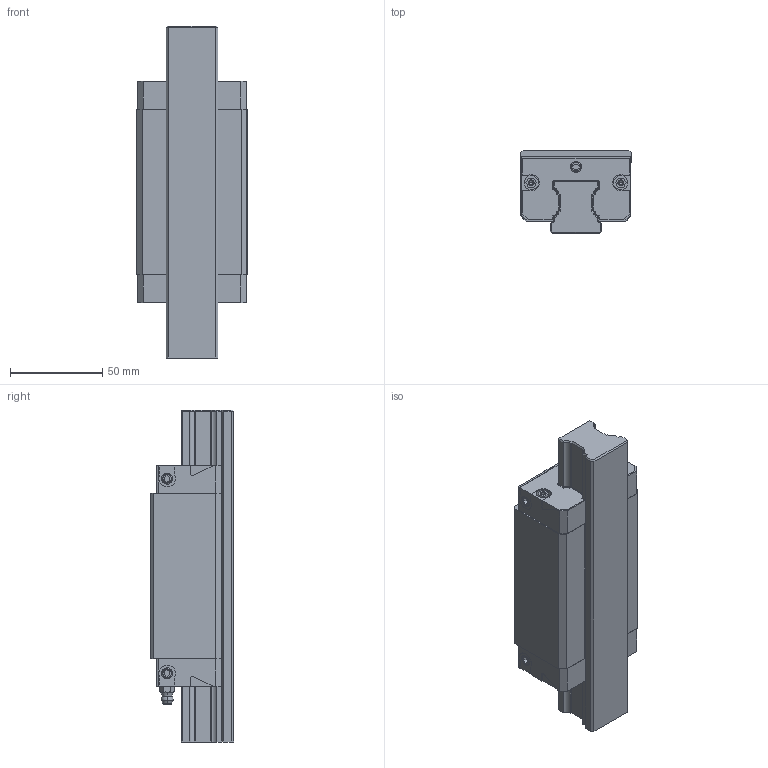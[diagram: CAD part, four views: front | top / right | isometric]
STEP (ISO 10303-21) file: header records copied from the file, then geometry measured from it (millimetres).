
FILE_DESCRIPTION((''),'2;1');
FILE_NAME('KWD_030_SLH_CS__ASM','2021-10-14T07:38:47',('ac91sw'),(''),'CREO PARAMETRIC BY PTC INC, 2020044','CREO PARAMETRIC BY PTC INC, 2020044','');
FILE_SCHEMA(('AUTOMOTIVE_DESIGN { 1 0 10303 214 1 1 1 1 }'));
Length unit declared in the file: millimetre
Products named in the file (7): KWD_030_SLH_CS__SKEL; R201570101; R200170102_Z; R343706101_Z; KWD_030_SLH_CS__PSF; R341700802_Z; KWD_030_SLH_CS__ASM
Assembly tree (11 placements, depth 2):
  KWD_030_SLH_CS__ASM
    KWD_030_SLH_CS__SKEL
    R201570101
    R200170102_Z  x2
    R343706101_Z  x5
    KWD_030_SLH_CS__PSF
    R341700802_Z
Bounding box: 60 x 45 x 179.7 mm (x, y, z)
Volume: 290825.1 mm3; surface area: 73138.1 mm2
Topology: 10 solids, 24 shells, 508 faces, 1302 edges, 822 vertices
Faces by surface type: plane 288, cylinder 142, cone 72, torus 4, sphere 2
Entity records: 16300 total; most frequent: CARTESIAN_POINT 1921, DIRECTION 1624, ORIENTED_EDGE 1524, PROPERTY_DEFINITION 822, REPRESENTATION 813, PROPERTY_DEFINITION_REPRESENTATION 813, EDGE_CURVE 778, DESCRIPTIVE_REPRESENTATION_ITEM 756
